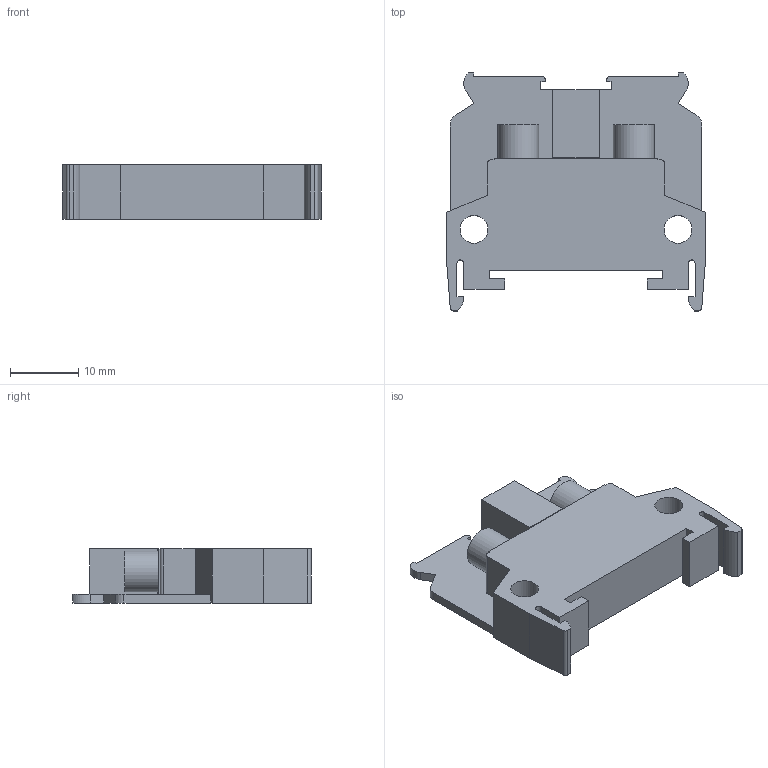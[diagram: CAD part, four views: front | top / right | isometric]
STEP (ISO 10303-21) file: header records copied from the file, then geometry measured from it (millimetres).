
FILE_DESCRIPTION(/* description */ (''),/* implementation_level */ '2;1');
FILE_NAME(/* name */ '2311400(TX-2)HP 3D.stp',/* time_stamp */ '2024-12-26T16:59:18+09:00',/* author */ ('usercadg104'),/* organization */ (''),/* preprocessor_version */ 'ST-DEVELOPER v19.2',/* originating_system */ 'Autodesk Inventor 2023',/* authorisation */ '');
FILE_SCHEMA (('CONFIG_CONTROL_DESIGN'));
Length unit declared in the file: millimetre
Products named in the file (1): 23341-(TX-2 ﾕﾆｯﾄ □ ＊)
Bounding box: 38 x 35 x 8 mm (x, y, z)
Volume: 5828.4 mm3; surface area: 3972.1 mm2
Topology: 1 solids, 1 shells, 76 faces, 216 edges, 144 vertices
Faces by surface type: plane 58, cylinder 18
Full cylindrical faces by diameter (mm): 4.1 x2, 6 x2
Entity records: 2507 total; most frequent: CARTESIAN_POINT 437, ORIENTED_EDGE 432, DIRECTION 406, EDGE_CURVE 216, LINE 180, VECTOR 180, VERTEX_POINT 144, AXIS2_PLACEMENT_3D 113
